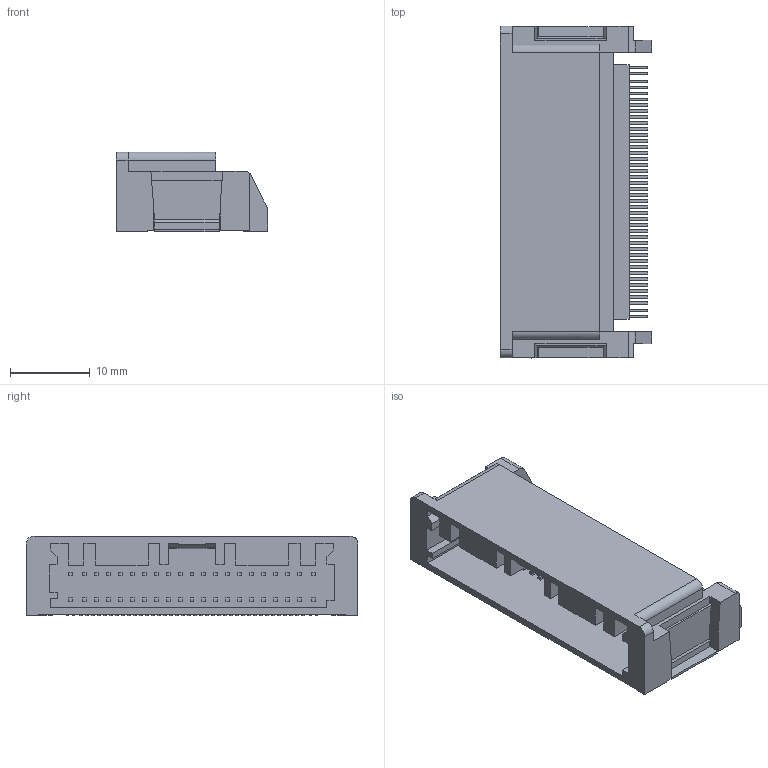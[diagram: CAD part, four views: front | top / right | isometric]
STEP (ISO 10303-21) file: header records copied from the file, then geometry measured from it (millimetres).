
FILE_DESCRIPTION(('CATIA V5 STEP','CAx-IF Rec.Pracs.--- Model Styling and Organization---1.5--- 2016-08-15','CAx-IF Rec.Pracs.---Supplemental Geometry---1.0---2011-11-01','CAx-IF Rec.Pracs.--- Composite Materials ---1.1---2010-07-15'),'2;1');
FILE_NAME('C:\Users\0120140016\Desktop\カタログ3D\42WAY\6099-0001(HE020-42SMT-GR).stp','2024-09-25T03:27:26+00:00',('none'),('none'),'CATIA Version 5-6 Release 2022 SP2 HF23','CATIA V5 STEP AP214 v2','none');
FILE_SCHEMA(('AUTOMOTIVE_DESIGN { 1 0 10303 214 1 1 1 1 }'));
Length unit declared in the file: millimetre
Products named in the file (1): M-ASSY42
Bounding box: 19 x 41.55 x 10 mm (x, y, z)
Volume: 3091.2 mm3; surface area: 4539 mm2
Topology: 1 solids, 1 shells, 655 faces, 1706 edges, 1138 vertices
Faces by surface type: plane 639, cylinder 16
Entity records: 17585 total; most frequent: ORIENTED_EDGE 3412, CARTESIAN_POINT 3113, DIRECTION 2173, EDGE_CURVE 1706, VECTOR 1668, LINE 1668, VERTEX_POINT 1138, EDGE_LOOP 740
